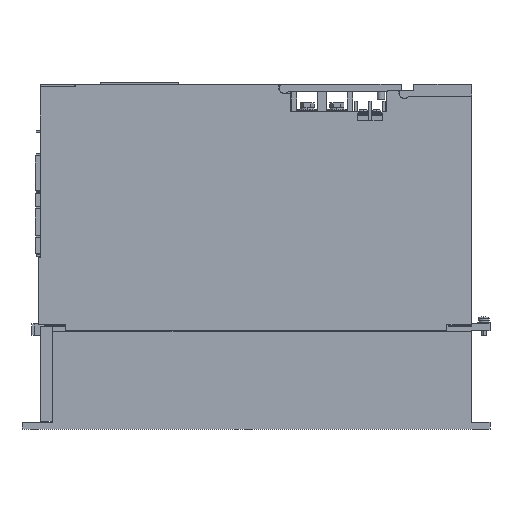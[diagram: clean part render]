
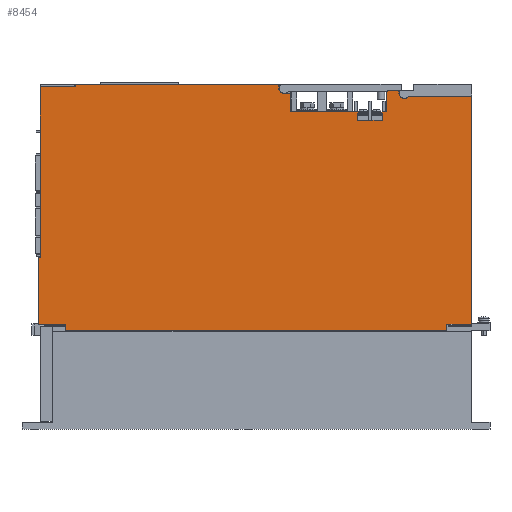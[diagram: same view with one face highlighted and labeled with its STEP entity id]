
A CAD part, left-side view. The second image highlights one B-rep face of the part: STEP entity #8454.
In plain terms, the highlighted planar face has unit normal (-1, 0, 0).
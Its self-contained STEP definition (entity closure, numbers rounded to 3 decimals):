
#3626=DIRECTION('',(0.,-1.,0.));
#3627=VECTOR('',#3626,310.);
#3628=CARTESIAN_POINT('',(-37.5,155.,0.));
#3629=LINE('',#3628,#3627);
#3782=DIRECTION('',(0.,0.,1.));
#3783=VECTOR('',#3782,185.3);
#3784=CARTESIAN_POINT('',(-37.5,-175.,5.4));
#3785=LINE('',#3784,#3783);
#4797=DIRECTION('',(0.,1.,0.));
#4798=VECTOR('',#4797,20.);
#4799=CARTESIAN_POINT('',(-37.5,-102.5,171.));
#4800=LINE('',#4799,#4798);
#4801=DIRECTION('',(0.,0.,1.));
#4802=VECTOR('',#4801,6.8);
#4803=CARTESIAN_POINT('',(-37.5,-102.5,171.));
#4804=LINE('',#4803,#4802);
#4805=DIRECTION('',(0.,0.,-1.));
#4806=VECTOR('',#4805,16.4);
#4807=CARTESIAN_POINT('',(-37.5,-106.,194.2));
#4808=LINE('',#4807,#4806);
#4809=DIRECTION('',(0.,-1.,0.));
#4810=VECTOR('',#4809,0.8);
#4811=CARTESIAN_POINT('',(-37.5,-106.,194.2));
#4812=LINE('',#4811,#4810);
#4813=DIRECTION('',(0.,0.,1.));
#4814=VECTOR('',#4813,1.);
#4815=CARTESIAN_POINT('',(-37.5,-106.8,194.2));
#4816=LINE('',#4815,#4814);
#4817=DIRECTION('',(0.,1.,0.));
#4818=VECTOR('',#4817,9.2);
#4819=CARTESIAN_POINT('',(-37.5,-116.,195.2));
#4820=LINE('',#4819,#4818);
#4821=DIRECTION('',(0.,0.,1.));
#4822=VECTOR('',#4821,2.);
#4823=CARTESIAN_POINT('',(-37.5,-116.,193.2));
#4824=LINE('',#4823,#4822);
#4825=CARTESIAN_POINT('',(-37.5,-120.5,193.2));
#4826=DIRECTION('',(1.,0.,0.));
#4827=DIRECTION('',(0.,-0.831,-0.556));
#4828=AXIS2_PLACEMENT_3D('',#4825,#4826,#4827);
#4830=DIRECTION('',(0.,-1.,0.));
#4831=VECTOR('',#4830,20.);
#4832=CARTESIAN_POINT('',(-37.5,-155.,5.4));
#4833=LINE('',#4832,#4831);
#4834=DIRECTION('',(0.,0.,1.));
#4835=VECTOR('',#4834,5.4);
#4836=CARTESIAN_POINT('',(-37.5,-155.,0.));
#4837=LINE('',#4836,#4835);
#4838=DIRECTION('',(0.,0.,1.));
#4839=VECTOR('',#4838,5.4);
#4840=CARTESIAN_POINT('',(-37.5,155.,0.));
#4841=LINE('',#4840,#4839);
#4842=DIRECTION('',(0.,-1.,0.));
#4843=VECTOR('',#4842,22.);
#4844=CARTESIAN_POINT('',(-37.5,177.,5.4));
#4845=LINE('',#4844,#4843);
#4846=DIRECTION('',(0.,0.,1.));
#4847=VECTOR('',#4846,138.2);
#4848=CARTESIAN_POINT('',(-37.5,175.,59.9));
#4849=LINE('',#4848,#4847);
#4850=DIRECTION('',(0.,-1.,0.));
#4851=VECTOR('',#4850,28.2);
#4852=CARTESIAN_POINT('',(-37.5,175.,198.1));
#4853=LINE('',#4852,#4851);
#4854=DIRECTION('',(0.,0.,-1.));
#4855=VECTOR('',#4854,2.1);
#4856=CARTESIAN_POINT('',(-37.5,146.8,200.2));
#4857=LINE('',#4856,#4855);
#4858=DIRECTION('',(0.,0.,-1.));
#4859=VECTOR('',#4858,3.);
#4860=CARTESIAN_POINT('',(-37.5,-18.5,200.2));
#4861=LINE('',#4860,#4859);
#4862=DIRECTION('',(0.,1.,0.));
#4863=VECTOR('',#4862,5.);
#4864=CARTESIAN_POINT('',(-37.5,-28.,192.7));
#4865=LINE('',#4864,#4863);
#4866=DIRECTION('',(0.,0.,-1.));
#4867=VECTOR('',#4866,14.9);
#4868=CARTESIAN_POINT('',(-37.5,-28.,192.7));
#4869=LINE('',#4868,#4867);
#4870=DIRECTION('',(0.,0.,1.));
#4871=VECTOR('',#4870,6.8);
#4872=CARTESIAN_POINT('',(-37.5,-82.5,171.));
#4873=LINE('',#4872,#4871);
#4894=DIRECTION('',(0.,-1.,0.));
#4895=VECTOR('',#4894,3.5);
#4896=CARTESIAN_POINT('',(-37.5,-102.5,177.8));
#4897=LINE('',#4896,#4895);
#4902=DIRECTION('',(0.,-1.,0.));
#4903=VECTOR('',#4902,54.5);
#4904=CARTESIAN_POINT('',(-37.5,-28.,177.8));
#4905=LINE('',#4904,#4903);
#5149=CARTESIAN_POINT('',(-37.5,-23.,197.2));
#5150=DIRECTION('',(1.,0.,0.));
#5151=DIRECTION('',(0.,0.,-1.));
#5152=AXIS2_PLACEMENT_3D('',#5149,#5150,#5151);
#5174=DIRECTION('',(0.,-1.,0.));
#5175=VECTOR('',#5174,165.3);
#5176=CARTESIAN_POINT('',(-37.5,146.8,200.2));
#5177=LINE('',#5176,#5175);
#5696=DIRECTION('',(0.,1.,0.));
#5697=VECTOR('',#5696,50.758);
#5698=CARTESIAN_POINT('',(-37.5,-175.,190.7));
#5699=LINE('',#5698,#5697);
#6002=DIRECTION('',(0.,0.,1.));
#6003=VECTOR('',#6002,54.5);
#6004=CARTESIAN_POINT('',(-37.5,177.,5.4));
#6005=LINE('',#6004,#6003);
#6018=DIRECTION('',(0.,1.,0.));
#6019=VECTOR('',#6018,2.);
#6020=CARTESIAN_POINT('',(-37.5,175.,59.9));
#6021=LINE('',#6020,#6019);
#6030=CARTESIAN_POINT('',(-37.5,-175.,190.7));
#6032=VERTEX_POINT('',#6030);
#6050=CARTESIAN_POINT('',(-37.5,146.8,200.2));
#6052=VERTEX_POINT('',#6050);
#6054=CARTESIAN_POINT('',(-37.5,175.,198.1));
#6055=CARTESIAN_POINT('',(-37.5,146.8,198.1));
#6056=VERTEX_POINT('',#6054);
#6057=VERTEX_POINT('',#6055);
#6102=CARTESIAN_POINT('',(-37.5,177.,59.9));
#6104=VERTEX_POINT('',#6102);
#6106=CARTESIAN_POINT('',(-37.5,175.,59.9));
#6108=VERTEX_POINT('',#6106);
#6454=CARTESIAN_POINT('',(-37.5,-155.,0.));
#6456=VERTEX_POINT('',#6454);
#6462=CARTESIAN_POINT('',(-37.5,155.,0.));
#6464=VERTEX_POINT('',#6462);
#6470=CARTESIAN_POINT('',(-37.5,177.,5.4));
#6471=CARTESIAN_POINT('',(-37.5,155.,5.4));
#6472=VERTEX_POINT('',#6470);
#6473=VERTEX_POINT('',#6471);
#6474=CARTESIAN_POINT('',(-37.5,-155.,5.4));
#6475=CARTESIAN_POINT('',(-37.5,-175.,5.4));
#6476=VERTEX_POINT('',#6474);
#6477=VERTEX_POINT('',#6475);
#6486=CARTESIAN_POINT('',(-37.5,-18.5,200.2));
#6488=VERTEX_POINT('',#6486);
#6494=CARTESIAN_POINT('',(-37.5,-28.,192.7));
#6496=VERTEX_POINT('',#6494);
#6542=CARTESIAN_POINT('',(-37.5,-116.,193.2));
#6543=VERTEX_POINT('',#6542);
#6544=CARTESIAN_POINT('',(-37.5,-124.242,190.7));
#6545=VERTEX_POINT('',#6544);
#6546=CARTESIAN_POINT('',(-37.5,-116.,195.2));
#6547=VERTEX_POINT('',#6546);
#6586=CARTESIAN_POINT('',(-37.5,-23.,192.7));
#6587=VERTEX_POINT('',#6586);
#6588=CARTESIAN_POINT('',(-37.5,-18.5,197.2));
#6589=VERTEX_POINT('',#6588);
#6606=CARTESIAN_POINT('',(-37.5,-106.,177.8));
#6608=VERTEX_POINT('',#6606);
#6622=CARTESIAN_POINT('',(-37.5,-28.,177.8));
#6624=VERTEX_POINT('',#6622);
#6630=CARTESIAN_POINT('',(-37.5,-102.5,171.));
#6631=CARTESIAN_POINT('',(-37.5,-82.5,171.));
#6632=VERTEX_POINT('',#6630);
#6633=VERTEX_POINT('',#6631);
#6634=CARTESIAN_POINT('',(-37.5,-102.5,177.8));
#6635=VERTEX_POINT('',#6634);
#6636=CARTESIAN_POINT('',(-37.5,-82.5,177.8));
#6637=VERTEX_POINT('',#6636);
#6702=CARTESIAN_POINT('',(-37.5,-106.,194.2));
#6703=CARTESIAN_POINT('',(-37.5,-106.8,194.2));
#6704=VERTEX_POINT('',#6702);
#6705=VERTEX_POINT('',#6703);
#6706=CARTESIAN_POINT('',(-37.5,-106.8,195.2));
#6707=VERTEX_POINT('',#6706);
#8399=CARTESIAN_POINT('',(-37.5,175.,0.));
#8400=DIRECTION('',(-1.,0.,0.));
#8401=DIRECTION('',(0.,-1.,0.));
#8402=AXIS2_PLACEMENT_3D('',#8399,#8400,#8401);
#8403=PLANE('',#8402);
#8404=ORIENTED_EDGE('',*,*,#8358,.F.);
#8406=ORIENTED_EDGE('',*,*,#8405,.T.);
#8408=ORIENTED_EDGE('',*,*,#8407,.T.);
#8410=ORIENTED_EDGE('',*,*,#8409,.F.);
#8412=ORIENTED_EDGE('',*,*,#8411,.T.);
#8414=ORIENTED_EDGE('',*,*,#8413,.T.);
#8416=ORIENTED_EDGE('',*,*,#8415,.F.);
#8418=ORIENTED_EDGE('',*,*,#8417,.F.);
#8420=ORIENTED_EDGE('',*,*,#8419,.F.);
#8422=ORIENTED_EDGE('',*,*,#8421,.F.);
#8423=ORIENTED_EDGE('',*,*,#6987,.F.);
#8424=ORIENTED_EDGE('',*,*,#6923,.F.);
#8425=ORIENTED_EDGE('',*,*,#6876,.F.);
#8426=ORIENTED_EDGE('',*,*,#6841,.F.);
#8427=ORIENTED_EDGE('',*,*,#8274,.T.);
#8428=ORIENTED_EDGE('',*,*,#6939,.F.);
#8430=ORIENTED_EDGE('',*,*,#8429,.T.);
#8432=ORIENTED_EDGE('',*,*,#8431,.F.);
#8433=ORIENTED_EDGE('',*,*,#7410,.T.);
#8435=ORIENTED_EDGE('',*,*,#8434,.T.);
#8437=ORIENTED_EDGE('',*,*,#8436,.F.);
#8439=ORIENTED_EDGE('',*,*,#8438,.T.);
#8441=ORIENTED_EDGE('',*,*,#8440,.T.);
#8443=ORIENTED_EDGE('',*,*,#8442,.F.);
#8445=ORIENTED_EDGE('',*,*,#8444,.F.);
#8447=ORIENTED_EDGE('',*,*,#8446,.T.);
#8449=ORIENTED_EDGE('',*,*,#8448,.T.);
#8451=ORIENTED_EDGE('',*,*,#8450,.F.);
#8452=EDGE_LOOP('',(#8404,#8406,#8408,#8410,#8412,#8414,#8416,#8418,#8420,#8422,
#8423,#8424,#8425,#8426,#8427,#8428,#8430,#8432,#8433,#8435,#8437,#8439,#8441,
#8443,#8445,#8447,#8449,#8451));
#8453=FACE_OUTER_BOUND('',#8452,.F.);
#8454=ADVANCED_FACE('',(#8453),#8403,.T.);
#4829=CIRCLE('',#4828,4.5);
#5153=CIRCLE('',#5152,4.5);
#6841=EDGE_CURVE('',#6464,#6456,#3629,.T.);
#6876=EDGE_CURVE('',#6456,#6476,#4837,.T.);
#6923=EDGE_CURVE('',#6476,#6477,#4833,.T.);
#6939=EDGE_CURVE('',#6472,#6473,#4845,.T.);
#6987=EDGE_CURVE('',#6477,#6032,#3785,.T.);
#7410=EDGE_CURVE('',#6108,#6056,#4849,.T.);
#8274=EDGE_CURVE('',#6464,#6473,#4841,.T.);
#8358=EDGE_CURVE('',#6632,#6633,#4800,.T.);
#8405=EDGE_CURVE('',#6632,#6635,#4804,.T.);
#8407=EDGE_CURVE('',#6635,#6608,#4897,.T.);
#8409=EDGE_CURVE('',#6704,#6608,#4808,.T.);
#8411=EDGE_CURVE('',#6704,#6705,#4812,.T.);
#8413=EDGE_CURVE('',#6705,#6707,#4816,.T.);
#8415=EDGE_CURVE('',#6547,#6707,#4820,.T.);
#8417=EDGE_CURVE('',#6543,#6547,#4824,.T.);
#8419=EDGE_CURVE('',#6545,#6543,#4829,.T.);
#8421=EDGE_CURVE('',#6032,#6545,#5699,.T.);
#8429=EDGE_CURVE('',#6472,#6104,#6005,.T.);
#8431=EDGE_CURVE('',#6108,#6104,#6021,.T.);
#8434=EDGE_CURVE('',#6056,#6057,#4853,.T.);
#8436=EDGE_CURVE('',#6052,#6057,#4857,.T.);
#8438=EDGE_CURVE('',#6052,#6488,#5177,.T.);
#8440=EDGE_CURVE('',#6488,#6589,#4861,.T.);
#8442=EDGE_CURVE('',#6587,#6589,#5153,.T.);
#8444=EDGE_CURVE('',#6496,#6587,#4865,.T.);
#8446=EDGE_CURVE('',#6496,#6624,#4869,.T.);
#8448=EDGE_CURVE('',#6624,#6637,#4905,.T.);
#8450=EDGE_CURVE('',#6633,#6637,#4873,.T.);
